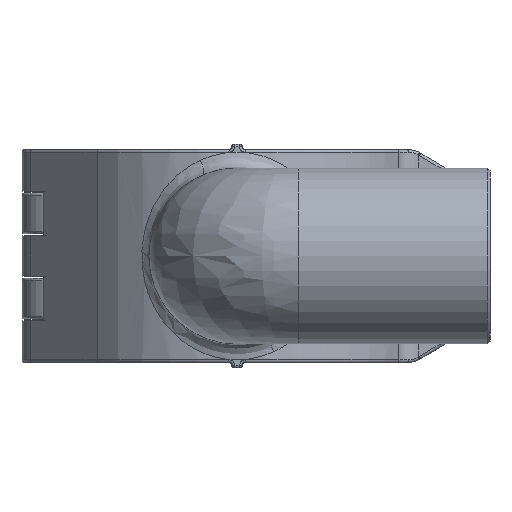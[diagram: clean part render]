
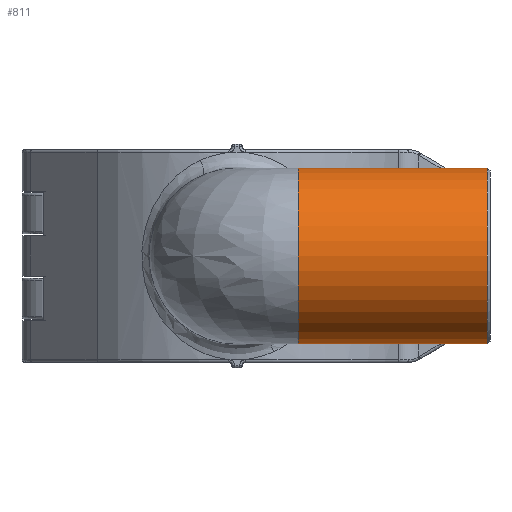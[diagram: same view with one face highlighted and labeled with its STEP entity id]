
A CAD part, front view. The second image highlights one B-rep face of the part: STEP entity #811.
In plain terms, the highlighted cylindrical face has radius 16.5 mm (diameter 33 mm), a partial arc.
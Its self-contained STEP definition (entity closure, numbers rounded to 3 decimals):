
#465=CYLINDRICAL_SURFACE('',#6065,16.5);
#811=ADVANCED_FACE('',(#1199),#465,.T.);
#1199=FACE_OUTER_BOUND('',#1544,.T.);
#1544=EDGE_LOOP('',(#3137,#3138,#3139,#3140));
#1986=CIRCLE('',#6056,16.5);
#1991=CIRCLE('',#6063,16.5);
#3137=ORIENTED_EDGE('',*,*,#4852,.T.);
#3138=ORIENTED_EDGE('',*,*,#4847,.F.);
#3139=ORIENTED_EDGE('',*,*,#4851,.T.);
#3140=ORIENTED_EDGE('',*,*,#4858,.T.);
#4159=VERTEX_POINT('',#12432);
#4160=VERTEX_POINT('',#12434);
#4162=VERTEX_POINT('',#12565);
#4163=VERTEX_POINT('',#12567);
#4847=EDGE_CURVE('',#4159,#4160,#1986,.T.);
#4851=EDGE_CURVE('',#4159,#4162,#5313,.T.);
#4852=EDGE_CURVE('',#4163,#4160,#5314,.T.);
#4858=EDGE_CURVE('',#4162,#4163,#1991,.T.);
#5313=LINE('',#12564,#5525);
#5314=LINE('',#12566,#5526);
#5525=VECTOR('',#7357,1.);
#5526=VECTOR('',#7358,1.);
#6056=AXIS2_PLACEMENT_3D('',#12433,#7353,#7354);
#6063=AXIS2_PLACEMENT_3D('',#12577,#7371,#7372);
#6065=AXIS2_PLACEMENT_3D('',#12579,#7375,#7376);
#7353=DIRECTION('',(-1.,0.,0.));
#7354=DIRECTION('',(0.,0.,-1.));
#7357=DIRECTION('',(1.,0.,0.));
#7358=DIRECTION('',(-1.,0.,0.));
#7371=DIRECTION('',(-1.,0.,0.));
#7372=DIRECTION('',(0.,0.,-1.));
#7375=DIRECTION('',(-1.,0.,0.));
#7376=DIRECTION('',(0.,0.,-1.));
#12432=CARTESIAN_POINT('',(11.5,-54.2,-16.5));
#12433=CARTESIAN_POINT('',(11.5,-54.2,0.));
#12434=CARTESIAN_POINT('',(11.5,-54.2,16.5));
#12564=CARTESIAN_POINT('',(11.5,-54.2,-16.5));
#12565=CARTESIAN_POINT('',(47.,-54.2,-16.5));
#12566=CARTESIAN_POINT('',(47.,-54.2,16.5));
#12567=CARTESIAN_POINT('',(47.,-54.2,16.5));
#12577=CARTESIAN_POINT('',(47.,-54.2,0.));
#12579=CARTESIAN_POINT('',(49.378,-54.2,0.));
